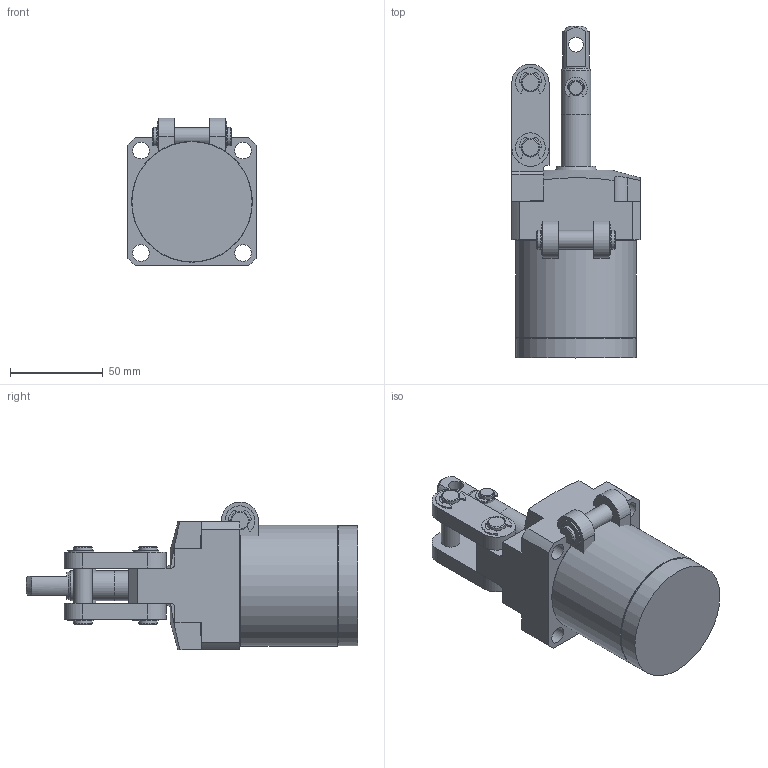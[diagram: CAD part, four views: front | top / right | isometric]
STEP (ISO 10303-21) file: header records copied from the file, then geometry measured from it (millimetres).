
FILE_DESCRIPTION( ( '' ), '1' );
FILE_NAME( 'W:/Catalogue/JL5H/JL5H42-28K/JL5H42-28K.stp', '2008-05-26T01:49:04', ( '機械事業部産業機器グループ' ), ( '豊和工業株式会社' ), 'XStep 1.0', ' ', ' ' );
FILE_SCHEMA( ( 'CONFIG_CONTROL_DESIGN' ) );
Length unit declared in the file: millimetre
Products named in the file (5): Assem1; 1; 2; 3; 4
Bounding box: 69 x 178.5 x 79.5 mm (x, y, z)
Volume: 715713.1 mm3; surface area: 134780.9 mm2
Topology: 8 solids, 12 shells, 510 faces, 1338 edges, 880 vertices
Faces by surface type: plane 256, cylinder 214, cone 38, torus 2
Full cylindrical faces by diameter (mm): 2 x2, 5 x2, 6 x4, 8 x16, 9 x8, 10 x14, 11 x4, 14.5 x2, 16 x4, 18 x2, 22 x2, 26 x4, 42 x4, 64 x4, 64.7 x2, 65 x2
Entity records: 7816 total; most frequent: CARTESIAN_POINT 1410, DIRECTION 1370, ORIENTED_EDGE 1170, EDGE_CURVE 585, AXIS2_PLACEMENT_3D 540, VERTEX_POINT 416, EDGE_LOOP 350, FACE_OUTER_BOUND 294
